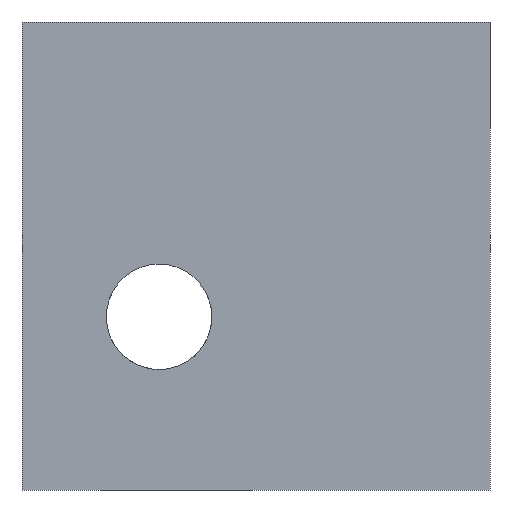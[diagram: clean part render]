
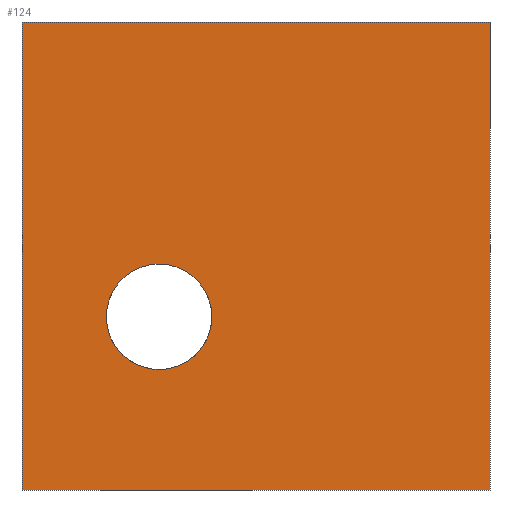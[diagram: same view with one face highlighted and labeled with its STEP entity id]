
A CAD part, front view. The second image highlights one B-rep face of the part: STEP entity #124.
In plain terms, the highlighted planar face has unit normal (0, -1, 0).
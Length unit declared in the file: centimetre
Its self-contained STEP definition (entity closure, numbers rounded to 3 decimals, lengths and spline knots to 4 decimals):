
#17 = CARTESIAN_POINT ( 'NONE',  ( 1000., 0., 1000. ) ) ;
#27 = CARTESIAN_POINT ( 'NONE',  ( 292.8524, 0., 482.7316 ) ) ;
#31 = CARTESIAN_POINT ( 'NONE',  ( 292.8524, 0., 257.3113 ) ) ;
#39 = CARTESIAN_POINT ( 'NONE',  ( 0., 0., 0. ) ) ;
#59 = ORIENTED_EDGE ( 'NONE', *, *, #663, .T. ) ;
#71 = CARTESIAN_POINT ( 'NONE',  ( 292.8524, 0., 370.0215 ) ) ;
#84 = AXIS2_PLACEMENT_3D ( 'NONE', #544, #708, #481 ) ;
#87 = DIRECTION ( 'NONE',  ( 0., 0., -1. ) ) ;
#99 = AXIS2_PLACEMENT_3D ( 'NONE', #648, #694, #179 ) ;
#101 = CARTESIAN_POINT ( 'NONE',  ( 1000., 0., 1000. ) ) ;
#106 = DIRECTION ( 'NONE',  ( 0., 0., -1. ) ) ;
#109 = VECTOR ( 'NONE', #87, 100. ) ;
#111 = LINE ( 'NONE', #621, #674 ) ;
#112 = CIRCLE ( 'NONE', #99, 112.7101 ) ;
#124 = ADVANCED_FACE ( 'NONE', ( #488, #431 ), #204, .F. ) ;
#142 = ORIENTED_EDGE ( 'NONE', *, *, #681, .T. ) ;
#154 = DIRECTION ( 'NONE',  ( 0., 0., 1. ) ) ;
#165 = CARTESIAN_POINT ( 'NONE',  ( 0., 0., 1000. ) ) ;
#169 = VERTEX_POINT ( 'NONE', #27 ) ;
#179 = DIRECTION ( 'NONE',  ( 0., 0., 1. ) ) ;
#180 = ORIENTED_EDGE ( 'NONE', *, *, #424, .F. ) ;
#204 = PLANE ( 'NONE',  #84 ) ;
#231 = DIRECTION ( 'NONE',  ( 1., 0., 0. ) ) ;
#234 = EDGE_LOOP ( 'NONE', ( #142, #180, #647, #503 ) ) ;
#283 = EDGE_CURVE ( 'NONE', #408, #169, #112, .T. ) ;
#291 = DIRECTION ( 'NONE',  ( 0., 1., 0. ) ) ;
#293 = VERTEX_POINT ( 'NONE', #416 ) ;
#303 = VERTEX_POINT ( 'NONE', #17 ) ;
#321 = LINE ( 'NONE', #39, #641 ) ;
#332 = AXIS2_PLACEMENT_3D ( 'NONE', #71, #291, #154 ) ;
#340 = CIRCLE ( 'NONE', #332, 112.7101 ) ;
#374 = VECTOR ( 'NONE', #556, 100. ) ;
#380 = LINE ( 'NONE', #101, #109 ) ;
#408 = VERTEX_POINT ( 'NONE', #31 ) ;
#416 = CARTESIAN_POINT ( 'NONE',  ( 0., 0., 0. ) ) ;
#424 = EDGE_CURVE ( 'NONE', #303, #491, #380, .T. ) ;
#431 = FACE_OUTER_BOUND ( 'NONE', #234, .T. ) ;
#452 = CARTESIAN_POINT ( 'NONE',  ( 1000., 0., 0. ) ) ;
#467 = EDGE_CURVE ( 'NONE', #632, #303, #618, .T. ) ;
#481 = DIRECTION ( 'NONE',  ( 0., 0., 1. ) ) ;
#488 = FACE_BOUND ( 'NONE', #542, .T. ) ;
#491 = VERTEX_POINT ( 'NONE', #452 ) ;
#497 = EDGE_CURVE ( 'NONE', #632, #293, #111, .T. ) ;
#503 = ORIENTED_EDGE ( 'NONE', *, *, #497, .T. ) ;
#542 = EDGE_LOOP ( 'NONE', ( #59, #619 ) ) ;
#544 = CARTESIAN_POINT ( 'NONE',  ( 0., 0., 1000. ) ) ;
#556 = DIRECTION ( 'NONE',  ( 1., 0., 0. ) ) ;
#578 = CARTESIAN_POINT ( 'NONE',  ( 0., 0., 1000. ) ) ;
#618 = LINE ( 'NONE', #165, #374 ) ;
#619 = ORIENTED_EDGE ( 'NONE', *, *, #283, .T. ) ;
#621 = CARTESIAN_POINT ( 'NONE',  ( 0., 0., 1000. ) ) ;
#632 = VERTEX_POINT ( 'NONE', #578 ) ;
#641 = VECTOR ( 'NONE', #231, 100. ) ;
#647 = ORIENTED_EDGE ( 'NONE', *, *, #467, .F. ) ;
#648 = CARTESIAN_POINT ( 'NONE',  ( 292.8524, 0., 370.0215 ) ) ;
#663 = EDGE_CURVE ( 'NONE', #169, #408, #340, .T. ) ;
#674 = VECTOR ( 'NONE', #106, 100. ) ;
#681 = EDGE_CURVE ( 'NONE', #293, #491, #321, .T. ) ;
#694 = DIRECTION ( 'NONE',  ( 0., 1., 0. ) ) ;
#708 = DIRECTION ( 'NONE',  ( 0., 1., 0. ) ) ;
